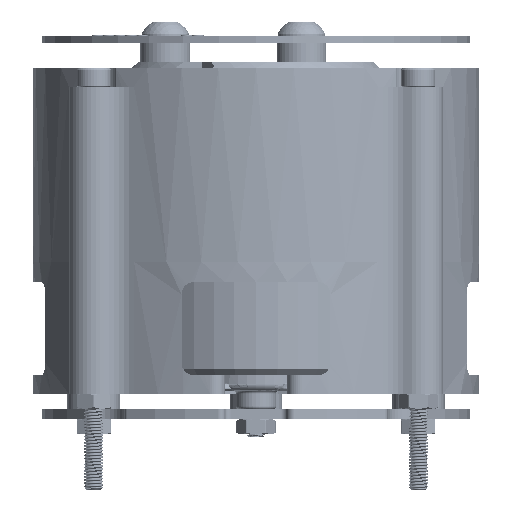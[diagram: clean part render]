
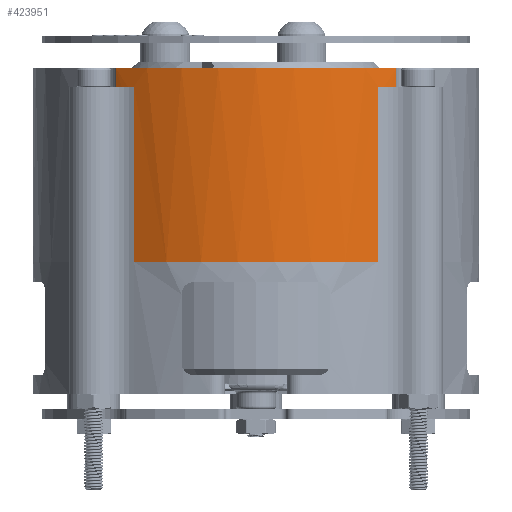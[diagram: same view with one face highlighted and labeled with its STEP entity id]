
A CAD part, front view. The second image highlights one B-rep face of the part: STEP entity #423951.
In plain terms, the highlighted cylindrical face has radius 36 mm (diameter 72 mm), a partial arc.
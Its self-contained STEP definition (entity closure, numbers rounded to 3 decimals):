
#3383=CYLINDRICAL_SURFACE('',#447373,36.);
#10883=LINE('',#594859,#66750);
#10898=LINE('',#594954,#66765);
#10900=LINE('',#594972,#66767);
#11994=LINE('',#597242,#67861);
#66750=VECTOR('',#480930,10.);
#66765=VECTOR('',#481043,10.);
#66767=VECTOR('',#481063,10.);
#67861=VECTOR('',#482243,10.);
#121453=FACE_OUTER_BOUND('',#143804,.T.);
#143804=EDGE_LOOP('',(#286951,#286952,#286953,#286954,#286955,#286956,#286957,
#286958));
#167080=CIRCLE('',#446004,36.);
#167231=CIRCLE('',#447301,36.);
#167244=CIRCLE('',#447319,36.);
#167246=CIRCLE('',#447323,36.);
#172699=VERTEX_POINT('',#585755);
#172700=VERTEX_POINT('',#585757);
#176115=VERTEX_POINT('',#594857);
#176137=VERTEX_POINT('',#594921);
#176138=VERTEX_POINT('',#594923);
#176145=VERTEX_POINT('',#594948);
#176147=VERTEX_POINT('',#594956);
#176148=VERTEX_POINT('',#594957);
#214654=EDGE_CURVE('',#172700,#172699,#167080,.T.);
#219205=EDGE_CURVE('',#176115,#172699,#10883,.T.);
#219236=EDGE_CURVE('',#176137,#176138,#167231,.T.);
#219250=EDGE_CURVE('',#176115,#176145,#167244,.T.);
#219252=EDGE_CURVE('',#176138,#176145,#10898,.T.);
#219253=EDGE_CURVE('',#176147,#176148,#167246,.T.);
#219261=EDGE_CURVE('',#176137,#176147,#10900,.T.);
#220396=EDGE_CURVE('',#172700,#176148,#11994,.T.);
#286951=ORIENTED_EDGE('',*,*,#214654,.T.);
#286952=ORIENTED_EDGE('',*,*,#219205,.F.);
#286953=ORIENTED_EDGE('',*,*,#219250,.T.);
#286954=ORIENTED_EDGE('',*,*,#219252,.F.);
#286955=ORIENTED_EDGE('',*,*,#219236,.F.);
#286956=ORIENTED_EDGE('',*,*,#219261,.T.);
#286957=ORIENTED_EDGE('',*,*,#219253,.T.);
#286958=ORIENTED_EDGE('',*,*,#220396,.F.);
#423951=ADVANCED_FACE('',(#121453),#3383,.T.);
#446004=AXIS2_PLACEMENT_3D('',#585758,#473975,#473976);
#447301=AXIS2_PLACEMENT_3D('',#594924,#481000,#481001);
#447319=AXIS2_PLACEMENT_3D('',#594950,#481037,#481038);
#447323=AXIS2_PLACEMENT_3D('',#594958,#481046,#481047);
#447373=AXIS2_PLACEMENT_3D('',#597241,#482241,#482242);
#473975=DIRECTION('center_axis',(0.,0.,1.));
#473976=DIRECTION('ref_axis',(-1.,0.,0.));
#480930=DIRECTION('',(0.,0.,-1.));
#481000=DIRECTION('center_axis',(0.,0.,1.));
#481001=DIRECTION('ref_axis',(1.,0.,0.));
#481037=DIRECTION('center_axis',(0.,0.,1.));
#481038=DIRECTION('ref_axis',(1.,0.,0.));
#481043=DIRECTION('',(0.,0.,-1.));
#481046=DIRECTION('center_axis',(0.,0.,1.));
#481047=DIRECTION('ref_axis',(1.,0.,0.));
#481063=DIRECTION('',(0.,0.,-1.));
#482241=DIRECTION('center_axis',(0.,0.,1.));
#482242=DIRECTION('ref_axis',(-1.,0.,0.));
#482243=DIRECTION('',(0.,0.,1.));
#585755=CARTESIAN_POINT('',(57.169,7.349,18.3));
#585757=CARTESIAN_POINT('',(17.831,7.349,18.3));
#585758=CARTESIAN_POINT('Origin',(37.5,37.5,18.3));
#594857=CARTESIAN_POINT('',(57.169,7.349,46.5));
#594859=CARTESIAN_POINT('',(57.169,7.349,16.3));
#594921=CARTESIAN_POINT('',(14.885,9.49,49.5));
#594923=CARTESIAN_POINT('',(60.115,9.49,49.5));
#594924=CARTESIAN_POINT('Origin',(37.5,37.5,49.5));
#594948=CARTESIAN_POINT('',(60.115,9.49,46.5));
#594950=CARTESIAN_POINT('Origin',(37.5,37.5,46.5));
#594954=CARTESIAN_POINT('',(60.115,9.49,49.5));
#594956=CARTESIAN_POINT('',(14.885,9.49,46.5));
#594957=CARTESIAN_POINT('',(17.831,7.349,46.5));
#594958=CARTESIAN_POINT('Origin',(37.5,37.5,46.5));
#594972=CARTESIAN_POINT('',(14.885,9.49,49.5));
#597241=CARTESIAN_POINT('Origin',(37.5,37.5,16.3));
#597242=CARTESIAN_POINT('',(17.831,7.349,16.3));
